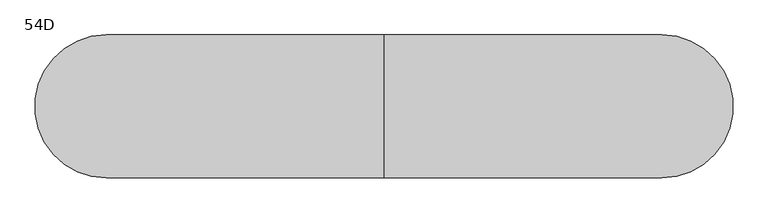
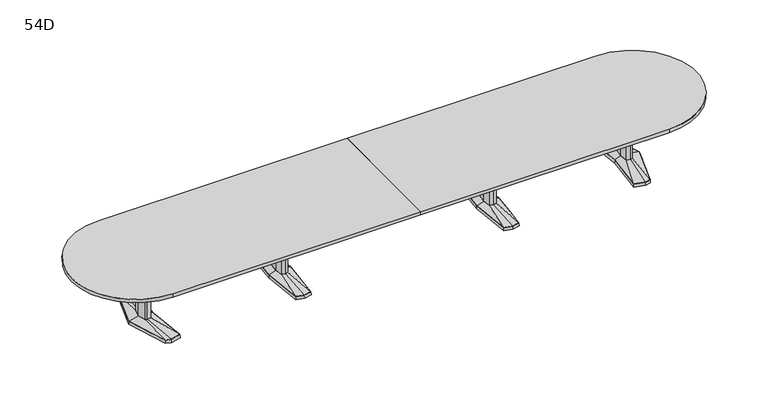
"""IFC4 building model written with IfcOpenShell, lengths in millimetres: furniture geometry, Coalesse_AM_Table_Conference_ETable2_Racetrack_22ft_AluminiumBase : 54D."""

from ifc_helpers import new_model, si_unit, point, frame, frame_2d, origin, place, context, project, spatial, polyline, circle_curve, trimmed, segment, composite_curve, outline, extrude, faceted_brep, source, transform, mapped, element, save
from ifc_brep_helpers import plane_surface, spline_surface, advanced_brep


def furniture_54d_ad1e54f7(model_context):
    return source(origin(), model_context, "Body", "SolidModel", [
        faceted_brep([(1036.3666209, -433.8053819, 38.1), (1117.6, -455.556576, 38.1), (1198.8333791, -433.8053819, 38.1), (1236.6564774, 0.0, 38.1), (1198.8333791, 433.8053819, 38.1), (1117.6, 455.556576, 38.1), (1036.3666209, 433.8053819, 38.1), (998.5435226, 0.0, 38.1), (1034.8817205, -435.0512063, 3.175), (996.95, 0.0, 3.175), (1034.8817205, 435.0512063, 3.175), (1117.6, 457.2, 3.175), (1200.3182795, 435.0512063, 3.175), (1238.25, 0.0, 3.175), (1200.3182795, -435.0512063, 3.175), (1117.6, -457.2, 3.175), (1117.6, 429.2617927, 3.175), (1039.6323194, 408.3850278, 3.175), (1042.8980179, 382.9646737, 3.175), (1117.6, 402.9670094, 3.175), (1192.3019821, 382.9646737, 3.175), (1195.5676806, 408.3850278, 3.175), (1117.6, -429.2617927, 3.175), (1195.5676806, -408.3850278, 3.175), (1192.3019821, -382.9646737, 3.175), (1117.6, -402.9670094, 3.175), (1042.8980179, -382.9646737, 3.175), (1039.6323194, -408.3850278, 3.175), (1045.7425738, 114.6326257, 3.175), (1035.0573924, 0.0, 3.175), (1045.7425738, -114.6326257, 3.175), (1117.6, -133.8761372, 3.175), (1189.4574262, -114.6326257, 3.175), (1200.1426076, 0.0, 3.175), (1189.4574262, 114.6326257, 3.175), (1117.6, 133.8761372, 3.175), (1117.6, 429.2617927, 0.0), (1195.5676806, 408.3850278, 0.0), (1192.3019821, 382.9646737, 0.0), (1117.6, 402.9670094, 0.0), (1042.8980179, 382.9646737, 0.0), (1039.6323194, 408.3850278, 0.0), (1117.6, -429.2617927, 0.0), (1039.6323194, -408.3850278, 0.0), (1042.8980179, -382.9646737, 0.0), (1117.6, -402.9670094, 0.0), (1192.3019821, -382.9646737, 0.0), (1195.5676806, -408.3850278, 0.0), (1045.7425738, 114.6326257, 0.0), (1117.6, 133.8761372, 0.0), (1189.4574262, 114.6326257, 0.0), (1200.1426076, 0.0, 0.0), (1189.4574262, -114.6326257, 0.0), (1117.6, -133.8761372, 0.0), (1045.7425738, -114.6326257, 0.0), (1035.0573924, 0.0, 0.0)], [[[0, 1, 2, 3, 4, 5, 6, 7]], [[8, 9, 10, 11, 12, 13, 14, 15], [16, 17, 18, 19, 20, 21], [22, 23, 24, 25, 26, 27], [28, 29, 30, 31, 32, 33, 34, 35]], [[1, 0, 8, 15]], [[2, 1, 15, 14]], [[3, 2, 14, 13]], [[4, 3, 13, 12]], [[5, 4, 12, 11]], [[6, 5, 11, 10]], [[7, 6, 10, 9]], [[0, 7, 9, 8]], [[36, 37, 38, 39, 40, 41]], [[42, 43, 44, 45, 46, 47]], [[48, 49, 50, 51, 52, 53, 54, 55]], [[36, 41, 17, 16]], [[41, 40, 18, 17]], [[40, 39, 19, 18]], [[39, 38, 20, 19]], [[38, 37, 21, 20]], [[37, 36, 16, 21]], [[42, 47, 23, 22]], [[47, 46, 24, 23]], [[46, 45, 25, 24]], [[45, 44, 26, 25]], [[44, 43, 27, 26]], [[43, 42, 22, 27]], [[48, 55, 29, 28]], [[55, 54, 30, 29]], [[54, 53, 31, 30]], [[53, 52, 32, 31]], [[52, 51, 33, 32]], [[51, 50, 34, 33]], [[50, 49, 35, 34]], [[49, 48, 28, 35]]]),
        faceted_brep([(1081.2167166, 84.6900825, 698.5), (1073.3225513, 0.0, 698.5), (1081.2167166, -84.6900825, 698.5), (1117.6, -94.4335728, 698.5), (1153.9832834, -84.6900825, 698.5), (1161.8774487, 0.0, 698.5), (1153.9832834, 84.6900825, 698.5), (1117.6, 94.4335728, 698.5), (1081.2167166, 84.6900825, 63.5), (1117.6, 94.4335728, 63.5), (1153.9832834, 84.6900825, 63.5), (1161.8774487, 0.0, 63.5), (1153.9832834, -84.6900825, 63.5), (1117.6, -94.4335728, 63.5), (1081.2167166, -84.6900825, 63.5), (1073.3225513, 0.0, 63.5)], [[[0, 1, 2, 3, 4, 5, 6, 7]], [[8, 9, 10, 11, 12, 13, 14, 15]], [[1, 0, 8, 15]], [[2, 1, 15, 14]], [[3, 2, 14, 13]], [[4, 3, 13, 12]], [[5, 4, 12, 11]], [[6, 5, 11, 10]], [[7, 6, 10, 9]], [[0, 7, 9, 8]]]),
        advanced_brep(
        [(1081.2167166, 84.6900825, 63.5), (1073.3225513, 0.0, 63.5), (1081.2167166, -84.6900825, 63.5), (1117.6, -94.4335728, 63.5), (1153.9832834, -84.6900825, 63.5), (1161.8774487, 0.0, 63.5), (1153.9832834, 84.6900825, 63.5), (1117.6, 94.4335728, 63.5), (1036.3666209, 433.8053819, 38.1), (1117.6, 455.556576, 38.1), (1198.8333791, 433.8053819, 38.1), (1236.6564774, 0.0, 38.1), (1198.8333791, -433.8053819, 38.1), (1117.6, -455.556576, 38.1), (1036.3666209, -433.8053819, 38.1), (998.5435226, 0.0, 38.1)],
        [
            (0, 1),
            (1, 2),
            (2, 3),
            (3, 4),
            (4, 5),
            (5, 6),
            (6, 7),
            (7, 0),
            (8, 9),
            (9, 10),
            (10, 11),
            (11, 12),
            (12, 13),
            (13, 14),
            (14, 15),
            (15, 8),
            (15, 1),
            (0, 8),
            (14, 2),
            (13, 3),
            (12, 4),
            (11, 5),
            (10, 6),
            (9, 7),
        ],
        [
            plane_surface(frame((1117.6, 0.0, 63.5), z_axis=(0.0, 0.0, 1.0000000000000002), x_axis=(-0.9659615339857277, -0.25868574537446, 0.0))),
            plane_surface(frame((1117.6, 0.0, 38.1), z_axis=(0.0, 0.0, -1.0000000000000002), x_axis=(-0.9659615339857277, -0.25868574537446, 0.0))),
            spline_surface(1, 1, [[(1036.3666209, 433.8053819, 38.1), (1081.2167166, 84.6900825, 63.5)], [(998.5435226, 0.0, 38.1), (1073.3225513, 0.0, 63.5)]], [2, 2], [2, 2], [0.0, 1.0], [0.0, 1.0]),
            spline_surface(1, 1, [[(998.5435226, 0.0, 38.1), (1073.3225513, 0.0, 63.5)], [(1036.3666209, -433.8053819, 38.1), (1081.2167166, -84.6900825, 63.5)]], [2, 2], [2, 2], [0.0, 1.0], [0.0, 1.0]),
            spline_surface(1, 1, [[(1036.3666209, -433.8053819, 38.1), (1081.2167166, -84.6900825, 63.5)], [(1117.6, -455.556576, 38.1), (1117.6, -94.4335728, 63.5)]], [2, 2], [2, 2], [0.0, 1.0], [0.0, 1.0]),
            spline_surface(1, 1, [[(1117.6, -455.556576, 38.1), (1117.6, -94.4335728, 63.5)], [(1198.8333791, -433.8053819, 38.1), (1153.9832834, -84.6900825, 63.5)]], [2, 2], [2, 2], [0.0, 1.0], [0.0, 1.0]),
            spline_surface(1, 1, [[(1198.8333791, -433.8053819, 38.1), (1153.9832834, -84.6900825, 63.5)], [(1236.6564774, 0.0, 38.1), (1161.8774487, 0.0, 63.5)]], [2, 2], [2, 2], [0.0, 1.0], [0.0, 1.0]),
            spline_surface(1, 1, [[(1236.6564774, 0.0, 38.1), (1161.8774487, 0.0, 63.5)], [(1198.8333791, 433.8053819, 38.1), (1153.9832834, 84.6900825, 63.5)]], [2, 2], [2, 2], [0.0, 1.0], [0.0, 1.0]),
            spline_surface(1, 1, [[(1198.8333791, 433.8053819, 38.1), (1153.9832834, 84.6900825, 63.5)], [(1117.6, 455.556576, 38.1), (1117.6, 94.4335728, 63.5)]], [2, 2], [2, 2], [0.0, 1.0], [0.0, 1.0]),
            spline_surface(1, 1, [[(1117.6, 455.556576, 38.1), (1117.6, 94.4335728, 63.5)], [(1036.3666209, 433.8053819, 38.1), (1081.2167166, 84.6900825, 63.5)]], [2, 2], [2, 2], [0.0, 1.0], [0.0, 1.0]),
        ],
        [
            (0, [[1, 2, 3, 4, 5, 6, 7, 8]]),
            (1, [[9, 10, 11, 12, 13, 14, 15, 16]]),
            (2, [[-16, 17, -1, 18]]),
            (3, [[-15, 19, -2, -17]]),
            (4, [[-14, 20, -3, -19]]),
            (5, [[-13, 21, -4, -20]]),
            (6, [[-12, 22, -5, -21]]),
            (7, [[-11, 23, -6, -22]]),
            (8, [[-10, 24, -7, -23]]),
            (9, [[-9, -18, -8, -24]]),
        ],
    ),
        faceted_brep([(-1198.8333791, -433.8053819, 38.1), (-1117.6, -455.556576, 38.1), (-1036.3666209, -433.8053819, 38.1), (-998.5435226, 0.0, 38.1), (-1036.3666209, 433.8053819, 38.1), (-1117.6, 455.556576, 38.1), (-1198.8333791, 433.8053819, 38.1), (-1236.6564774, 0.0, 38.1), (-1200.3182795, -435.0512063, 3.175), (-1238.25, 0.0, 3.175), (-1200.3182795, 435.0512063, 3.175), (-1117.6, 457.2, 3.175), (-1034.8817205, 435.0512063, 3.175), (-996.95, 0.0, 3.175), (-1034.8817205, -435.0512063, 3.175), (-1117.6, -457.2, 3.175), (-1117.6, 429.2617927, 3.175), (-1195.5676806, 408.3850278, 3.175), (-1192.3019821, 382.9646737, 3.175), (-1117.6, 402.9670094, 3.175), (-1042.8980179, 382.9646737, 3.175), (-1039.6323194, 408.3850278, 3.175), (-1117.6, -429.2617927, 3.175), (-1039.6323194, -408.3850278, 3.175), (-1042.8980179, -382.9646737, 3.175), (-1117.6, -402.9670094, 3.175), (-1192.3019821, -382.9646737, 3.175), (-1195.5676806, -408.3850278, 3.175), (-1189.4574262, 114.6326257, 3.175), (-1200.1426076, 0.0, 3.175), (-1189.4574262, -114.6326257, 3.175), (-1117.6, -133.8761372, 3.175), (-1045.7425738, -114.6326257, 3.175), (-1035.0573924, 0.0, 3.175), (-1045.7425738, 114.6326257, 3.175), (-1117.6, 133.8761372, 3.175), (-1117.6, 429.2617927, 0.0), (-1039.6323194, 408.3850278, 0.0), (-1042.8980179, 382.9646737, 0.0), (-1117.6, 402.9670094, 0.0), (-1192.3019821, 382.9646737, 0.0), (-1195.5676806, 408.3850278, 0.0), (-1117.6, -429.2617927, 0.0), (-1195.5676806, -408.3850278, 0.0), (-1192.3019821, -382.9646737, 0.0), (-1117.6, -402.9670094, 0.0), (-1042.8980179, -382.9646737, 0.0), (-1039.6323194, -408.3850278, 0.0), (-1189.4574262, 114.6326257, 0.0), (-1117.6, 133.8761372, 0.0), (-1045.7425738, 114.6326257, 0.0), (-1035.0573924, 0.0, 0.0), (-1045.7425738, -114.6326257, 0.0), (-1117.6, -133.8761372, 0.0), (-1189.4574262, -114.6326257, 0.0), (-1200.1426076, 0.0, 0.0)], [[[0, 1, 2, 3, 4, 5, 6, 7]], [[8, 9, 10, 11, 12, 13, 14, 15], [16, 17, 18, 19, 20, 21], [22, 23, 24, 25, 26, 27], [28, 29, 30, 31, 32, 33, 34, 35]], [[1, 0, 8, 15]], [[2, 1, 15, 14]], [[3, 2, 14, 13]], [[4, 3, 13, 12]], [[5, 4, 12, 11]], [[6, 5, 11, 10]], [[7, 6, 10, 9]], [[0, 7, 9, 8]], [[36, 37, 38, 39, 40, 41]], [[42, 43, 44, 45, 46, 47]], [[48, 49, 50, 51, 52, 53, 54, 55]], [[36, 41, 17, 16]], [[41, 40, 18, 17]], [[40, 39, 19, 18]], [[39, 38, 20, 19]], [[38, 37, 21, 20]], [[37, 36, 16, 21]], [[42, 47, 23, 22]], [[47, 46, 24, 23]], [[46, 45, 25, 24]], [[45, 44, 26, 25]], [[44, 43, 27, 26]], [[43, 42, 22, 27]], [[48, 55, 29, 28]], [[55, 54, 30, 29]], [[54, 53, 31, 30]], [[53, 52, 32, 31]], [[52, 51, 33, 32]], [[51, 50, 34, 33]], [[50, 49, 35, 34]], [[49, 48, 28, 35]]]),
        faceted_brep([(-1153.9832834, 84.6900825, 698.5), (-1161.8774487, 0.0, 698.5), (-1153.9832834, -84.6900825, 698.5), (-1117.6, -94.4335728, 698.5), (-1081.2167166, -84.6900825, 698.5), (-1073.3225513, 0.0, 698.5), (-1081.2167166, 84.6900825, 698.5), (-1117.6, 94.4335728, 698.5), (-1153.9832834, 84.6900825, 63.5), (-1117.6, 94.4335728, 63.5), (-1081.2167166, 84.6900825, 63.5), (-1073.3225513, 0.0, 63.5), (-1081.2167166, -84.6900825, 63.5), (-1117.6, -94.4335728, 63.5), (-1153.9832834, -84.6900825, 63.5), (-1161.8774487, 0.0, 63.5)], [[[0, 1, 2, 3, 4, 5, 6, 7]], [[8, 9, 10, 11, 12, 13, 14, 15]], [[1, 0, 8, 15]], [[2, 1, 15, 14]], [[3, 2, 14, 13]], [[4, 3, 13, 12]], [[5, 4, 12, 11]], [[6, 5, 11, 10]], [[7, 6, 10, 9]], [[0, 7, 9, 8]]]),
        advanced_brep(
        [(-1153.9832834, 84.6900825, 63.5), (-1161.8774487, 0.0, 63.5), (-1153.9832834, -84.6900825, 63.5), (-1117.6, -94.4335728, 63.5), (-1081.2167166, -84.6900825, 63.5), (-1073.3225513, 0.0, 63.5), (-1081.2167166, 84.6900825, 63.5), (-1117.6, 94.4335728, 63.5), (-1198.8333791, 433.8053819, 38.1), (-1117.6, 455.556576, 38.1), (-1036.3666209, 433.8053819, 38.1), (-998.5435226, 0.0, 38.1), (-1036.3666209, -433.8053819, 38.1), (-1117.6, -455.556576, 38.1), (-1198.8333791, -433.8053819, 38.1), (-1236.6564774, 0.0, 38.1)],
        [
            (0, 1),
            (1, 2),
            (2, 3),
            (3, 4),
            (4, 5),
            (5, 6),
            (6, 7),
            (7, 0),
            (8, 9),
            (9, 10),
            (10, 11),
            (11, 12),
            (12, 13),
            (13, 14),
            (14, 15),
            (15, 8),
            (15, 1),
            (0, 8),
            (14, 2),
            (13, 3),
            (12, 4),
            (11, 5),
            (10, 6),
            (9, 7),
        ],
        [
            plane_surface(frame((-1117.6, 0.0, 63.5), z_axis=(0.0, 0.0, 1.0000000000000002), x_axis=(-0.9659615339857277, -0.25868574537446, 0.0))),
            plane_surface(frame((-1117.6, 0.0, 38.1), z_axis=(0.0, 0.0, -1.0000000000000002), x_axis=(-0.9659615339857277, -0.25868574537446, 0.0))),
            spline_surface(1, 1, [[(-1198.8333791, 433.8053819, 38.1), (-1153.9832834, 84.6900825, 63.5)], [(-1236.6564774, 0.0, 38.1), (-1161.8774487, 0.0, 63.5)]], [2, 2], [2, 2], [0.0, 1.0], [0.0, 1.0]),
            spline_surface(1, 1, [[(-1236.6564774, 0.0, 38.1), (-1161.8774487, 0.0, 63.5)], [(-1198.8333791, -433.8053819, 38.1), (-1153.9832834, -84.6900825, 63.5)]], [2, 2], [2, 2], [0.0, 1.0], [0.0, 1.0]),
            spline_surface(1, 1, [[(-1198.8333791, -433.8053819, 38.1), (-1153.9832834, -84.6900825, 63.5)], [(-1117.6, -455.556576, 38.1), (-1117.6, -94.4335728, 63.5)]], [2, 2], [2, 2], [0.0, 1.0], [0.0, 1.0]),
            spline_surface(1, 1, [[(-1117.6, -455.556576, 38.1), (-1117.6, -94.4335728, 63.5)], [(-1036.3666209, -433.8053819, 38.1), (-1081.2167166, -84.6900825, 63.5)]], [2, 2], [2, 2], [0.0, 1.0], [0.0, 1.0]),
            spline_surface(1, 1, [[(-1036.3666209, -433.8053819, 38.1), (-1081.2167166, -84.6900825, 63.5)], [(-998.5435226, 0.0, 38.1), (-1073.3225513, 0.0, 63.5)]], [2, 2], [2, 2], [0.0, 1.0], [0.0, 1.0]),
            spline_surface(1, 1, [[(-998.5435226, 0.0, 38.1), (-1073.3225513, 0.0, 63.5)], [(-1036.3666209, 433.8053819, 38.1), (-1081.2167166, 84.6900825, 63.5)]], [2, 2], [2, 2], [0.0, 1.0], [0.0, 1.0]),
            spline_surface(1, 1, [[(-1036.3666209, 433.8053819, 38.1), (-1081.2167166, 84.6900825, 63.5)], [(-1117.6, 455.556576, 38.1), (-1117.6, 94.4335728, 63.5)]], [2, 2], [2, 2], [0.0, 1.0], [0.0, 1.0]),
            spline_surface(1, 1, [[(-1117.6, 455.556576, 38.1), (-1117.6, 94.4335728, 63.5)], [(-1198.8333791, 433.8053819, 38.1), (-1153.9832834, 84.6900825, 63.5)]], [2, 2], [2, 2], [0.0, 1.0], [0.0, 1.0]),
        ],
        [
            (0, [[1, 2, 3, 4, 5, 6, 7, 8]]),
            (1, [[9, 10, 11, 12, 13, 14, 15, 16]]),
            (2, [[-16, 17, -1, 18]]),
            (3, [[-15, 19, -2, -17]]),
            (4, [[-14, 20, -3, -19]]),
            (5, [[-13, 21, -4, -20]]),
            (6, [[-12, 22, -5, -21]]),
            (7, [[-11, 23, -6, -22]]),
            (8, [[-10, 24, -7, -23]]),
            (9, [[-9, -18, -8, -24]]),
        ],
    ),
        faceted_brep([(2548.0994335, 455.5848221, 38.1), (2438.5218777, 426.2263816, 38.1), (2479.6851217, 0.0, 38.1), (2438.5218777, -426.2263816, 38.1), (2548.0994335, -455.5848221, 38.1), (2604.2257896, -440.5478297, 38.1), (2741.5371769, 0.0, 38.1), (2604.2257896, 440.5478297, 38.1), (2548.0994254, 457.2283104, 3.175), (2605.4811972, 441.8549756, 3.175), (2743.2, 0.0, 3.175), (2605.4811972, -441.8549756, 3.175), (2548.0994254, -457.2283104, 3.175), (2436.8125, -427.4118891, 3.175), (2478.0902356, 0.0, 3.175), (2436.8125, 427.4118891, 3.175), (2551.688865, 428.3273875, 3.175), (2446.6405728, 402.1057253, 3.175), (2454.759268, 377.985069, 3.175), (2555.2782966, 401.0699529, 3.175), (2605.8379225, 387.524361, 3.175), (2605.0318561, 414.0360954, 3.175), (2551.688865, -428.3273875, 3.175), (2605.0318561, -414.0360954, 3.175), (2605.8379225, -387.524361, 3.175), (2555.2782966, -401.0699529, 3.175), (2454.759268, -377.985069, 3.175), (2446.6405728, -402.1057253, 3.175), (2678.2841121, 0.0, 3.175), (2646.0147111, 120.4193755, 3.175), (2597.3674722, 133.471665, 3.175), (2517.4868026, 119.4176561, 3.175), (2506.3555966, 0.0, 3.175), (2517.4868026, -119.4176561, 3.175), (2597.3674722, -133.471665, 3.175), (2646.0147111, -120.4193755, 3.175), (2551.688865, 428.3273875, 0.0), (2605.0318561, 414.0360954, 0.0), (2605.8379225, 387.524361, 0.0), (2555.2782966, 401.0699529, 0.0), (2454.759268, 377.985069, 0.0), (2446.6405728, 402.1057253, 0.0), (2551.688865, -428.3273875, 0.0), (2446.6405728, -402.1057253, 0.0), (2454.759268, -377.985069, 0.0), (2555.2782966, -401.0699529, 0.0), (2605.8379225, -387.524361, 0.0), (2605.0318561, -414.0360954, 0.0), (2678.2841121, 0.0, 0.0), (2646.0147111, -120.4193755, 0.0), (2597.3674722, -133.471665, 0.0), (2517.4868026, -119.4176561, 0.0), (2506.3555966, 0.0, 0.0), (2517.4868026, 119.4176561, 0.0), (2597.3674722, 133.471665, 0.0), (2646.0147111, 120.4193755, 0.0)], [[[0, 1, 2, 3, 4, 5, 6, 7]], [[8, 9, 10, 11, 12, 13, 14, 15], [16, 17, 18, 19, 20, 21], [22, 23, 24, 25, 26, 27], [28, 29, 30, 31, 32, 33, 34, 35]], [[7, 9, 8, 0]], [[6, 10, 9, 7]], [[5, 11, 10, 6]], [[4, 12, 11, 5]], [[3, 13, 12, 4]], [[2, 14, 13, 3]], [[1, 15, 14, 2]], [[0, 8, 15, 1]], [[36, 37, 38, 39, 40, 41]], [[42, 43, 44, 45, 46, 47]], [[48, 49, 50, 51, 52, 53, 54, 55]], [[36, 16, 21, 37]], [[37, 21, 20, 38]], [[38, 20, 19, 39]], [[39, 19, 18, 40]], [[40, 18, 17, 41]], [[41, 17, 16, 36]], [[42, 22, 27, 43]], [[43, 27, 26, 44]], [[44, 26, 25, 45]], [[45, 25, 24, 46]], [[46, 24, 23, 47]], [[47, 23, 22, 42]], [[48, 28, 35, 49]], [[49, 35, 34, 50]], [[50, 34, 33, 51]], [[51, 33, 32, 52]], [[52, 32, 31, 53]], [[53, 31, 30, 54]], [[54, 30, 29, 55]], [[55, 29, 28, 48]]]),
        faceted_brep([(2638.8398336, 0.0, 698.5), (2614.9046046, 89.3188359, 698.5), (2598.0512484, 93.8406728, 698.5), (2595.6514011, 94.4845635, 698.5), (2552.723896, 86.9320037, 698.5), (2544.6207556, 0.0, 698.5), (2552.723896, -86.9320037, 698.5), (2595.6514011, -94.4845635, 698.5), (2598.0512484, -93.8406728, 698.5), (2614.9046046, -89.3188359, 698.5), (2638.8398336, 0.0, 63.5), (2614.9046046, -89.3188359, 63.5), (2598.0512484, -93.8406728, 63.5), (2595.6514011, -94.4845635, 63.5), (2552.723896, -86.9320037, 63.5), (2544.6207556, 0.0, 63.5), (2552.723896, 86.9320037, 63.5), (2595.6514011, 94.4845635, 63.5), (2598.0512484, 93.8406728, 63.5), (2614.9046046, 89.3188359, 63.5)], [[[0, 1, 2, 3, 4, 5, 6, 7, 8, 9]], [[10, 11, 12, 13, 14, 15, 16, 17, 18, 19]], [[9, 11, 10, 0]], [[8, 12, 11, 9]], [[7, 13, 12, 8]], [[6, 14, 13, 7]], [[5, 15, 14, 6]], [[4, 16, 15, 5]], [[3, 17, 16, 4]], [[2, 18, 17, 3]], [[1, 19, 18, 2]], [[0, 10, 19, 1]]]),
        advanced_brep(
        [(2595.6514011, 94.4845635, 63.5), (2552.723896, 86.9320037, 63.5), (2544.6207556, 0.0, 63.5), (2552.723896, -86.9320037, 63.5), (2595.6514011, -94.4845635, 63.5), (2614.9046046, -89.3188359, 63.5), (2638.8398336, 0.0, 63.5), (2614.9046046, 89.3188359, 63.5), (2548.0994335, 455.5848221, 38.1), (2604.2257896, 440.5478297, 38.1), (2741.5371769, 0.0, 38.1), (2604.2257896, -440.5478297, 38.1), (2548.0994335, -455.5848221, 38.1), (2438.5218777, -426.2263816, 38.1), (2479.6851217, 0.0, 38.1), (2438.5218777, 426.2263816, 38.1)],
        [
            (0, 1),
            (1, 2),
            (2, 3),
            (3, 4),
            (4, 5),
            (5, 6),
            (6, 7),
            (7, 0),
            (8, 9),
            (9, 10),
            (10, 11),
            (11, 12),
            (12, 13),
            (13, 14),
            (14, 15),
            (15, 8),
            (8, 0),
            (7, 9),
            (6, 10),
            (5, 11),
            (4, 12),
            (3, 13),
            (2, 14),
            (1, 15),
        ],
        [
            plane_surface(frame((2588.7525491, 0.0, 63.5), z_axis=(0.0, 0.0, 1.0), x_axis=(-0.25884244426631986, -0.9659195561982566, 0.0))),
            plane_surface(frame((2550.3645625, 0.0, 38.1), z_axis=(0.0, 0.0, -1.0), x_axis=(-0.25884244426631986, -0.9659195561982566, 0.0))),
            spline_surface(1, 1, [[(2548.0994335, 455.5848221, 38.1), (2604.2257896, 440.5478297, 38.1)], [(2595.6514011, 94.4845635, 63.5), (2614.9046046, 89.3188359, 63.5)]], [2, 2], [2, 2], [0.0, 1.0], [0.0, 1.0]),
            spline_surface(1, 1, [[(2604.2257896, 440.5478297, 38.1), (2741.5371769, 0.0, 38.1)], [(2614.9046046, 89.3188359, 63.5), (2638.8398336, 0.0, 63.5)]], [2, 2], [2, 2], [0.0, 1.0], [0.0, 1.0]),
            spline_surface(1, 1, [[(2741.5371769, 0.0, 38.1), (2604.2257896, -440.5478297, 38.1)], [(2638.8398336, 0.0, 63.5), (2614.9046046, -89.3188359, 63.5)]], [2, 2], [2, 2], [0.0, 1.0], [0.0, 1.0]),
            spline_surface(1, 1, [[(2604.2257896, -440.5478297, 38.1), (2548.0994335, -455.5848221, 38.1)], [(2614.9046046, -89.3188359, 63.5), (2595.6514011, -94.4845635, 63.5)]], [2, 2], [2, 2], [0.0, 1.0], [0.0, 1.0]),
            spline_surface(1, 1, [[(2548.0994335, -455.5848221, 38.1), (2438.5218777, -426.2263816, 38.1)], [(2595.6514011, -94.4845635, 63.5), (2552.723896, -86.9320037, 63.5)]], [2, 2], [2, 2], [0.0, 1.0], [0.0, 1.0]),
            spline_surface(1, 1, [[(2438.5218777, -426.2263816, 38.1), (2479.6851217, 0.0, 38.1)], [(2552.723896, -86.9320037, 63.5), (2544.6207556, 0.0, 63.5)]], [2, 2], [2, 2], [0.0, 1.0], [0.0, 1.0]),
            spline_surface(1, 1, [[(2479.6851217, 0.0, 38.1), (2438.5218777, 426.2263816, 38.1)], [(2544.6207556, 0.0, 63.5), (2552.723896, 86.9320037, 63.5)]], [2, 2], [2, 2], [0.0, 1.0], [0.0, 1.0]),
            spline_surface(1, 1, [[(2438.5218777, 426.2263816, 38.1), (2548.0994335, 455.5848221, 38.1)], [(2552.723896, 86.9320037, 63.5), (2595.6514011, 94.4845635, 63.5)]], [2, 2], [2, 2], [0.0, 1.0], [0.0, 1.0]),
        ],
        [
            (0, [[1, 2, 3, 4, 5, 6, 7, 8]]),
            (1, [[9, 10, 11, 12, 13, 14, 15, 16]]),
            (2, [[17, -8, 18, -9]]),
            (3, [[-18, -7, 19, -10]]),
            (4, [[-19, -6, 20, -11]]),
            (5, [[-20, -5, 21, -12]]),
            (6, [[-21, -4, 22, -13]]),
            (7, [[-22, -3, 23, -14]]),
            (8, [[-23, -2, 24, -15]]),
            (9, [[-24, -1, -17, -16]]),
        ],
    ),
        faceted_brep([(-2548.0994335, 455.5848221, 38.1), (-2604.2257896, 440.5478297, 38.1), (-2741.5371769, 0.0, 38.1), (-2604.2257896, -440.5478297, 38.1), (-2548.0994335, -455.5848221, 38.1), (-2438.5218777, -426.2263816, 38.1), (-2479.6851217, 0.0, 38.1), (-2438.5218777, 426.2263816, 38.1), (-2548.0994254, 457.2283104, 3.175), (-2436.8125, 427.4118891, 3.175), (-2478.0902356, 0.0, 3.175), (-2436.8125, -427.4118891, 3.175), (-2548.0994254, -457.2283104, 3.175), (-2605.4811972, -441.8549756, 3.175), (-2743.2, 0.0, 3.175), (-2605.4811972, 441.8549756, 3.175), (-2551.688865, 428.3273875, 3.175), (-2605.0318561, 414.0360954, 3.175), (-2605.8379225, 387.524361, 3.175), (-2555.2782966, 401.0699529, 3.175), (-2454.759268, 377.985069, 3.175), (-2446.6405728, 402.1057253, 3.175), (-2551.688865, -428.3273875, 3.175), (-2446.6405728, -402.1057253, 3.175), (-2454.759268, -377.985069, 3.175), (-2555.2782966, -401.0699529, 3.175), (-2605.8379225, -387.524361, 3.175), (-2605.0318561, -414.0360954, 3.175), (-2678.2841121, 0.0, 3.175), (-2646.0147111, -120.4193755, 3.175), (-2597.3674722, -133.471665, 3.175), (-2517.4868026, -119.4176561, 3.175), (-2506.3555966, 0.0, 3.175), (-2517.4868026, 119.4176561, 3.175), (-2597.3674722, 133.471665, 3.175), (-2646.0147111, 120.4193755, 3.175), (-2551.688865, 428.3273875, 0.0), (-2446.6405728, 402.1057253, 0.0), (-2454.759268, 377.985069, 0.0), (-2555.2782966, 401.0699529, 0.0), (-2605.8379225, 387.524361, 0.0), (-2605.0318561, 414.0360954, 0.0), (-2551.688865, -428.3273875, 0.0), (-2605.0318561, -414.0360954, 0.0), (-2605.8379225, -387.524361, 0.0), (-2555.2782966, -401.0699529, 0.0), (-2454.759268, -377.985069, 0.0), (-2446.6405728, -402.1057253, 0.0), (-2678.2841121, 0.0, 0.0), (-2646.0147111, 120.4193755, 0.0), (-2597.3674722, 133.471665, 0.0), (-2517.4868026, 119.4176561, 0.0), (-2506.3555966, 0.0, 0.0), (-2517.4868026, -119.4176561, 0.0), (-2597.3674722, -133.471665, 0.0), (-2646.0147111, -120.4193755, 0.0)], [[[0, 1, 2, 3, 4, 5, 6, 7]], [[8, 9, 10, 11, 12, 13, 14, 15], [16, 17, 18, 19, 20, 21], [22, 23, 24, 25, 26, 27], [28, 29, 30, 31, 32, 33, 34, 35]], [[1, 0, 8, 15]], [[2, 1, 15, 14]], [[3, 2, 14, 13]], [[4, 3, 13, 12]], [[5, 4, 12, 11]], [[6, 5, 11, 10]], [[7, 6, 10, 9]], [[0, 7, 9, 8]], [[36, 37, 38, 39, 40, 41]], [[42, 43, 44, 45, 46, 47]], [[48, 49, 50, 51, 52, 53, 54, 55]], [[36, 41, 17, 16]], [[41, 40, 18, 17]], [[40, 39, 19, 18]], [[39, 38, 20, 19]], [[38, 37, 21, 20]], [[37, 36, 16, 21]], [[42, 47, 23, 22]], [[47, 46, 24, 23]], [[46, 45, 25, 24]], [[45, 44, 26, 25]], [[44, 43, 27, 26]], [[43, 42, 22, 27]], [[48, 55, 29, 28]], [[55, 54, 30, 29]], [[54, 53, 31, 30]], [[53, 52, 32, 31]], [[52, 51, 33, 32]], [[51, 50, 34, 33]], [[50, 49, 35, 34]], [[49, 48, 28, 35]]]),
        faceted_brep([(-2638.8398336, 0.0, 698.5), (-2614.9046046, -89.3188359, 698.5), (-2598.0512484, -93.8406728, 698.5), (-2595.6514011, -94.4845635, 698.5), (-2552.723896, -86.9320037, 698.5), (-2544.6207556, 0.0, 698.5), (-2552.723896, 86.9320037, 698.5), (-2595.6514011, 94.4845635, 698.5), (-2598.0512484, 93.8406728, 698.5), (-2614.9046046, 89.3188359, 698.5), (-2638.8398336, 0.0, 63.5), (-2614.9046046, 89.3188359, 63.5), (-2598.0512484, 93.8406728, 63.5), (-2595.6514011, 94.4845635, 63.5), (-2552.723896, 86.9320037, 63.5), (-2544.6207556, 0.0, 63.5), (-2552.723896, -86.9320037, 63.5), (-2595.6514011, -94.4845635, 63.5), (-2598.0512484, -93.8406728, 63.5), (-2614.9046046, -89.3188359, 63.5)], [[[0, 1, 2, 3, 4, 5, 6, 7, 8, 9]], [[10, 11, 12, 13, 14, 15, 16, 17, 18, 19]], [[1, 0, 10, 19]], [[2, 1, 19, 18]], [[3, 2, 18, 17]], [[4, 3, 17, 16]], [[5, 4, 16, 15]], [[6, 5, 15, 14]], [[7, 6, 14, 13]], [[8, 7, 13, 12]], [[9, 8, 12, 11]], [[0, 9, 11, 10]]]),
        advanced_brep(
        [(-2595.6514011, 94.4845635, 63.5), (-2614.9046046, 89.3188359, 63.5), (-2638.8398336, 0.0, 63.5), (-2614.9046046, -89.3188359, 63.5), (-2595.6514011, -94.4845635, 63.5), (-2552.723896, -86.9320037, 63.5), (-2544.6207556, 0.0, 63.5), (-2552.723896, 86.9320037, 63.5), (-2548.0994335, 455.5848221, 38.1), (-2438.5218777, 426.2263816, 38.1), (-2479.6851217, 0.0, 38.1), (-2438.5218777, -426.2263816, 38.1), (-2548.0994335, -455.5848221, 38.1), (-2604.2257896, -440.5478297, 38.1), (-2741.5371769, 0.0, 38.1), (-2604.2257896, 440.5478297, 38.1)],
        [
            (0, 1),
            (1, 2),
            (2, 3),
            (3, 4),
            (4, 5),
            (5, 6),
            (6, 7),
            (7, 0),
            (8, 9),
            (9, 10),
            (10, 11),
            (11, 12),
            (12, 13),
            (13, 14),
            (14, 15),
            (15, 8),
            (15, 1),
            (0, 8),
            (14, 2),
            (13, 3),
            (12, 4),
            (11, 5),
            (10, 6),
            (9, 7),
        ],
        [
            plane_surface(frame((-2588.7525491, 0.0, 63.5), z_axis=(0.0, 0.0, 1.0), x_axis=(0.25884244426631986, -0.9659195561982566, 0.0))),
            plane_surface(frame((-2550.3645625, 0.0, 38.1), z_axis=(0.0, 0.0, -1.0), x_axis=(0.25884244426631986, -0.9659195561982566, 0.0))),
            spline_surface(1, 1, [[(-2548.0994335, 455.5848221, 38.1), (-2595.6514011, 94.4845635, 63.5)], [(-2604.2257896, 440.5478297, 38.1), (-2614.9046046, 89.3188359, 63.5)]], [2, 2], [2, 2], [0.0, 1.0], [0.0, 1.0]),
            spline_surface(1, 1, [[(-2604.2257896, 440.5478297, 38.1), (-2614.9046046, 89.3188359, 63.5)], [(-2741.5371769, 0.0, 38.1), (-2638.8398336, 0.0, 63.5)]], [2, 2], [2, 2], [0.0, 1.0], [0.0, 1.0]),
            spline_surface(1, 1, [[(-2741.5371769, 0.0, 38.1), (-2638.8398336, 0.0, 63.5)], [(-2604.2257896, -440.5478297, 38.1), (-2614.9046046, -89.3188359, 63.5)]], [2, 2], [2, 2], [0.0, 1.0], [0.0, 1.0]),
            spline_surface(1, 1, [[(-2604.2257896, -440.5478297, 38.1), (-2614.9046046, -89.3188359, 63.5)], [(-2548.0994335, -455.5848221, 38.1), (-2595.6514011, -94.4845635, 63.5)]], [2, 2], [2, 2], [0.0, 1.0], [0.0, 1.0]),
            spline_surface(1, 1, [[(-2548.0994335, -455.5848221, 38.1), (-2595.6514011, -94.4845635, 63.5)], [(-2438.5218777, -426.2263816, 38.1), (-2552.723896, -86.9320037, 63.5)]], [2, 2], [2, 2], [0.0, 1.0], [0.0, 1.0]),
            spline_surface(1, 1, [[(-2438.5218777, -426.2263816, 38.1), (-2552.723896, -86.9320037, 63.5)], [(-2479.6851217, 0.0, 38.1), (-2544.6207556, 0.0, 63.5)]], [2, 2], [2, 2], [0.0, 1.0], [0.0, 1.0]),
            spline_surface(1, 1, [[(-2479.6851217, 0.0, 38.1), (-2544.6207556, 0.0, 63.5)], [(-2438.5218777, 426.2263816, 38.1), (-2552.723896, 86.9320037, 63.5)]], [2, 2], [2, 2], [0.0, 1.0], [0.0, 1.0]),
            spline_surface(1, 1, [[(-2438.5218777, 426.2263816, 38.1), (-2552.723896, 86.9320037, 63.5)], [(-2548.0994335, 455.5848221, 38.1), (-2595.6514011, 94.4845635, 63.5)]], [2, 2], [2, 2], [0.0, 1.0], [0.0, 1.0]),
        ],
        [
            (0, [[1, 2, 3, 4, 5, 6, 7, 8]]),
            (1, [[9, 10, 11, 12, 13, 14, 15, 16]]),
            (2, [[-16, 17, -1, 18]]),
            (3, [[-15, 19, -2, -17]]),
            (4, [[-14, 20, -3, -19]]),
            (5, [[-13, 21, -4, -20]]),
            (6, [[-12, 22, -5, -21]]),
            (7, [[-11, 23, -6, -22]]),
            (8, [[-10, 24, -7, -23]]),
            (9, [[-9, -18, -8, -24]]),
        ],
    ),
        extrude(outline(polyline([(96.8375, 698.5), (103.1875, 698.5), (103.1875, 476.25), (-103.1875, 476.25), (-103.1875, 698.5), (-96.8375, 698.5), (-96.8375, 482.6), (96.8375, 482.6), (96.8375, 698.5)])), frame((-1073.3225513, 0.0, 0.0), z_axis=(1.0, 0.0, 0.0), x_axis=(0.0, 1.0, 0.0)), (0.0, 0.0, 1.0), 2146.6451026),
        extrude(outline(polyline([(96.8375, 698.5), (103.1875, 698.5), (103.1875, 476.25), (-103.1875, 476.25), (-103.1875, 698.5), (-96.8375, 698.5), (-96.8375, 482.6), (96.8375, 482.6), (96.8375, 698.5)])), frame((1161.8774487, 0.0, 0.0), z_axis=(1.0, 0.0, 0.0), x_axis=(0.0, 1.0, 0.0)), (0.0, 0.0, 1.0), 1382.8850513),
        extrude(outline(composite_curve([segment(trimmed(circle_curve(frame_2d((2667.0, 0.0)), 685.8), [point((2667.0, 685.8))], [point((2667.0, -685.8))], False, "CARTESIAN"), True, "CONTINUOUS"), segment(polyline([(2667.0, -685.8), (0.0, -685.8), (0.0, 685.8), (2667.0, 685.8)]), True, "CONTINUOUS")], self_intersect=False)), frame((0.0, 0.0, 698.5), z_axis=(0.0, 0.0, 1.0), x_axis=(1.0, 0.0, 0.0)), (0.0, 0.0, 1.0), 38.1),
        extrude(outline(composite_curve([segment(polyline([(0.0, 685.8), (0.0, -685.8), (-2667.0, -685.8)]), True, "CONTINUOUS"), segment(trimmed(circle_curve(frame_2d((-2667.0, 0.0)), 685.8), [point((-2667.0, -685.8))], [point((-2667.0, 685.8))], False, "CARTESIAN"), True, "CONTINUOUS"), segment(polyline([(-2667.0, 685.8), (0.0, 685.8)]), True, "CONTINUOUS")], self_intersect=False)), frame((0.0, 0.0, 698.5), z_axis=(0.0, 0.0, 1.0), x_axis=(1.0, 0.0, 0.0)), (0.0, 0.0, 1.0), 38.1),
        extrude(outline(polyline([(96.8375, 698.5), (103.1875, 698.5), (103.1875, 476.25), (-103.1875, 476.25), (-103.1875, 698.5), (-96.8375, 698.5), (-96.8375, 482.6), (96.8375, 482.6), (96.8375, 698.5)])), frame((-2544.7625, 0.0, 0.0), z_axis=(1.0, 0.0, 0.0), x_axis=(0.0, 1.0, 0.0)), (0.0, 0.0, 1.0), 1382.8850513),
    ])


if __name__ == "__main__":
    model = new_model("IFC4")
    model_context = context("Model", 3, world=origin())
    ifc_project = project(units=[si_unit("LENGTHUNIT", "METRE", prefix="MILLI")], contexts=[model_context])
    site = spatial("IfcSite", under=ifc_project)
    building = spatial("IfcBuilding", under=site)
    placement = place(None, origin())
    furniture_54d_shape = furniture_54d_ad1e54f7(model_context)
    element("IfcFurniture", 1, ObjectType="Coalesse_AM_Table_Conference_ETable2_Racetrack_22ft_AluminiumBase : 54D", at=placement, inside=building, context=model_context, shape_type="MappedRepresentation", body=[
        mapped(furniture_54d_shape, transform((0.0, 0.0, 0.0), x_axis=(1.0, 0.0, 0.0), y_axis=(0.0, 1.0, 0.0), z_axis=(0.0, 0.0, 1.0))),
    ])
    save(model, "model.ifc")
